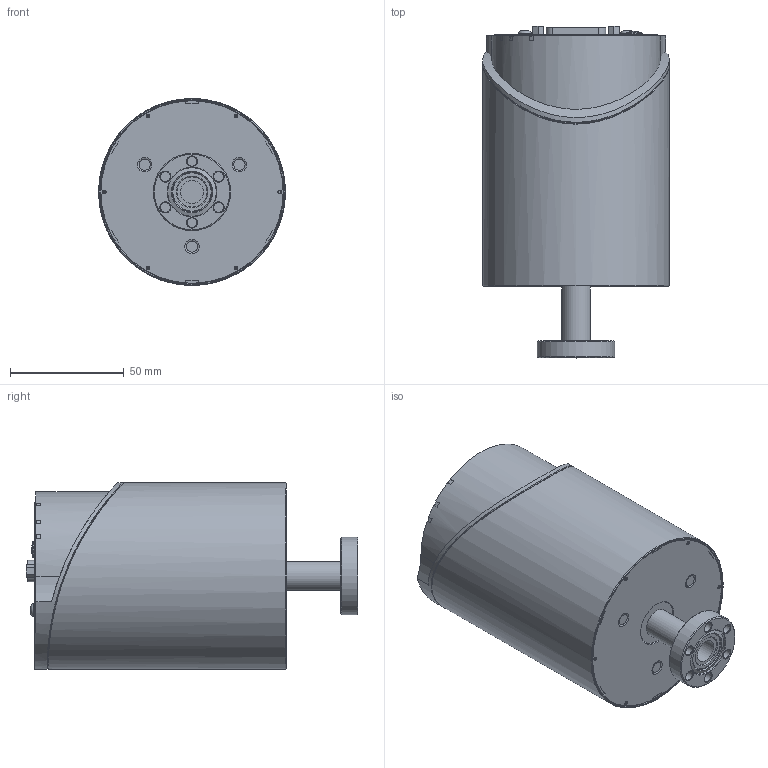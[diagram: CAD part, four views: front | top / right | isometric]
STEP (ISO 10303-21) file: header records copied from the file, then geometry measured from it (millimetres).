
FILE_DESCRIPTION(/* description */ (''),/* implementation_level */ '2;1');
FILE_NAME(/* name */ 'M:\Lehrlinge\09_Jeremy Studer\Step-dateien generieren\STEP\MCDG045D_16CF_ECAT.stp',/* time_stamp */ '2017-03-16T13:50:31+01:00',/* author */ ('STUJ'),/* organization */ (''),/* preprocessor_version */ 'ST-DEVELOPER v16.1',/* originating_system */ 'Autodesk Inventor 2016',/* authorisation */ '');
FILE_SCHEMA (('AUTOMOTIVE_DESIGN { 1 0 10303 214 3 1 1 }'));
Length unit declared in the file: millimetre
Products named in the file (1): Bauteil4
Bounding box: 82 x 145.75 x 82 mm (x, y, z)
Volume: 571873.4 mm3; surface area: 52583.9 mm2
Topology: 1 solids, 12 shells, 775 faces, 1999 edges, 1276 vertices
Faces by surface type: plane 427, cylinder 238, bspline 34, cone 29, sphere 27, torus 20
Full cylindrical faces by diameter (mm): 1 x15, 1.5 x2, 2.156 x2, 2.5 x1, 2.8 x2, 2.845 x2, 2.9 x2, 3 x5, 3.2 x4, 3.4 x2, 3.5 x2, 4.3 x6, 4.5 x1, 5.7 x2, 7 x1, 10.2 x1, 12.7 x1, 18.6 x1, 21.3 x1, 21.4 x1, 34 x1, 82 x2
Entity records: 24993 total; most frequent: CARTESIAN_POINT 5712, DIRECTION 3758, ORIENTED_EDGE 3678, EDGE_CURVE 1835, AXIS2_PLACEMENT_3D 1291, VERTEX_POINT 1234, LINE 1176, VECTOR 1176
